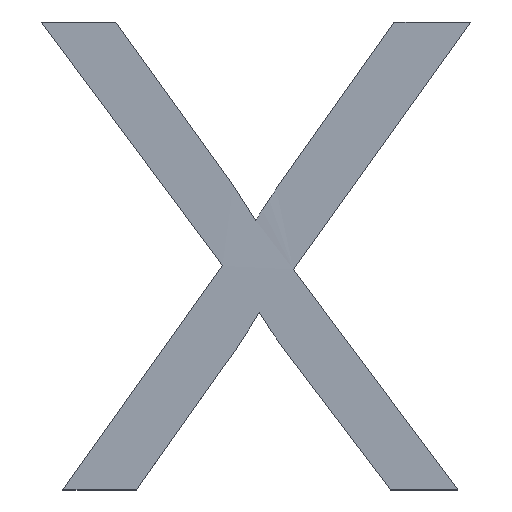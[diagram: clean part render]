
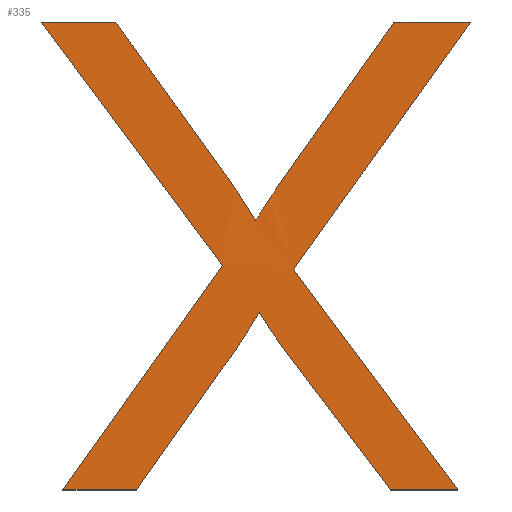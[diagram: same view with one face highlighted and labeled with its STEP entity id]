
A CAD part, top view. The second image highlights one B-rep face of the part: STEP entity #335.
In plain terms, the highlighted planar face has unit normal (0, 0, 1).
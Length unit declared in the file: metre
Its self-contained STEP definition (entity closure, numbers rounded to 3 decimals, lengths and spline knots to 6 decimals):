
#12=B_SPLINE_CURVE_WITH_KNOTS('',3,(#544,#545,#546,#547),.UNSPECIFIED.,
 .F.,.F.,(4,4),(0.,0.000073),.UNSPECIFIED.);
#15=CIRCLE('',#346,0.001192);
#17=CIRCLE('',#349,0.001058);
#19=CIRCLE('',#358,0.0014);
#100=ORIENTED_EDGE('',*,*,#160,.T.);
#101=ORIENTED_EDGE('',*,*,#116,.T.);
#102=ORIENTED_EDGE('',*,*,#120,.T.);
#103=ORIENTED_EDGE('',*,*,#123,.T.);
#104=ORIENTED_EDGE('',*,*,#126,.T.);
#105=ORIENTED_EDGE('',*,*,#129,.T.);
#106=ORIENTED_EDGE('',*,*,#132,.T.);
#107=ORIENTED_EDGE('',*,*,#135,.T.);
#108=ORIENTED_EDGE('',*,*,#138,.T.);
#109=ORIENTED_EDGE('',*,*,#141,.T.);
#110=ORIENTED_EDGE('',*,*,#144,.T.);
#111=ORIENTED_EDGE('',*,*,#147,.T.);
#112=ORIENTED_EDGE('',*,*,#150,.T.);
#113=ORIENTED_EDGE('',*,*,#152,.T.);
#114=ORIENTED_EDGE('',*,*,#154,.T.);
#115=ORIENTED_EDGE('',*,*,#157,.T.);
#116=EDGE_CURVE('',#162,#163,#192,.T.);
#120=EDGE_CURVE('',#163,#166,#196,.T.);
#123=EDGE_CURVE('',#166,#168,#199,.F.);
#126=EDGE_CURVE('',#168,#170,#202,.T.);
#129=EDGE_CURVE('',#170,#172,#15,.F.);
#132=EDGE_CURVE('',#172,#174,#17,.F.);
#135=EDGE_CURVE('',#174,#176,#207,.T.);
#138=EDGE_CURVE('',#176,#178,#210,.F.);
#141=EDGE_CURVE('',#178,#180,#213,.T.);
#144=EDGE_CURVE('',#180,#182,#216,.T.);
#147=EDGE_CURVE('',#182,#184,#219,.T.);
#150=EDGE_CURVE('',#184,#186,#222,.T.);
#152=EDGE_CURVE('',#186,#187,#19,.T.);
#154=EDGE_CURVE('',#187,#188,#12,.T.);
#157=EDGE_CURVE('',#188,#190,#225,.T.);
#160=EDGE_CURVE('',#190,#162,#228,.T.);
#162=VERTEX_POINT('',#453);
#163=VERTEX_POINT('',#454);
#166=VERTEX_POINT('',#462);
#168=VERTEX_POINT('',#468);
#170=VERTEX_POINT('',#474);
#172=VERTEX_POINT('',#480);
#174=VERTEX_POINT('',#486);
#176=VERTEX_POINT('',#492);
#178=VERTEX_POINT('',#498);
#180=VERTEX_POINT('',#504);
#182=VERTEX_POINT('',#510);
#184=VERTEX_POINT('',#516);
#186=VERTEX_POINT('',#522);
#187=VERTEX_POINT('',#526);
#188=VERTEX_POINT('',#548);
#190=VERTEX_POINT('',#558);
#192=LINE('',#452,#230);
#196=LINE('',#461,#234);
#199=LINE('',#467,#237);
#202=LINE('',#473,#240);
#207=LINE('',#491,#245);
#210=LINE('',#497,#248);
#213=LINE('',#503,#251);
#216=LINE('',#509,#254);
#219=LINE('',#515,#257);
#222=LINE('',#521,#260);
#225=LINE('',#557,#263);
#228=LINE('',#563,#266);
#230=VECTOR('',#368,1.);
#234=VECTOR('',#374,1.);
#237=VECTOR('',#379,1.);
#240=VECTOR('',#384,1.);
#245=VECTOR('',#403,1.);
#248=VECTOR('',#408,1.);
#251=VECTOR('',#413,1.);
#254=VECTOR('',#418,1.);
#257=VECTOR('',#423,1.);
#260=VECTOR('',#428,1.);
#263=VECTOR('',#439,1.);
#266=VECTOR('',#444,1.);
#285=EDGE_LOOP('',(#100,#101,#102,#103,#104,#105,#106,#107,#108,#109,#110,
#111,#112,#113,#114,#115));
#303=FACE_BOUND('',#285,.T.);
#317=PLANE('',#363);
#335=ADVANCED_FACE('',(#303),#317,.F.);
#346=AXIS2_PLACEMENT_3D('',#479,#389,#390);
#349=AXIS2_PLACEMENT_3D('',#485,#396,#397);
#358=AXIS2_PLACEMENT_3D('',#525,#432,#433);
#363=AXIS2_PLACEMENT_3D('',#566,#448,#449);
#368=DIRECTION('',(0.596,-0.803,0.));
#374=DIRECTION('',(-0.58,-0.815,0.));
#379=DIRECTION('',(-1.,0.,0.));
#384=DIRECTION('',(0.578,0.816,0.));
#389=DIRECTION('',(0.,0.,-1.));
#390=DIRECTION('',(-1.,0.,0.));
#396=DIRECTION('',(0.,0.,-1.));
#397=DIRECTION('',(0.,1.,0.));
#403=DIRECTION('',(0.604,-0.797,0.));
#408=DIRECTION('',(-1.,0.,0.));
#413=DIRECTION('',(-0.598,0.802,0.));
#418=DIRECTION('',(0.582,0.813,0.));
#423=DIRECTION('',(-1.,0.,0.));
#428=DIRECTION('',(-0.576,-0.817,0.));
#432=DIRECTION('',(0.,0.,1.));
#433=DIRECTION('',(0.,-1.,0.));
#439=DIRECTION('',(-0.584,0.811,0.));
#444=DIRECTION('',(-1.,0.,0.));
#448=DIRECTION('',(0.,0.,-1.));
#449=DIRECTION('',(0.,-1.,0.));
#452=CARTESIAN_POINT('',(-0.0435,0.006759,-0.03));
#453=CARTESIAN_POINT('',(-0.0435,0.006759,-0.03));
#454=CARTESIAN_POINT('',(-0.043184,0.006333,-0.03));
#461=CARTESIAN_POINT('',(-0.043184,0.006333,-0.03));
#462=CARTESIAN_POINT('',(-0.043463,0.005942,-0.03));
#467=CARTESIAN_POINT('',(-0.04158,0.005942,-0.03));
#468=CARTESIAN_POINT('',(-0.043334,0.005942,-0.03));
#473=CARTESIAN_POINT('',(-0.043334,0.005942,-0.03));
#474=CARTESIAN_POINT('',(-0.043186,0.006151,-0.03));
#479=CARTESIAN_POINT('',(-0.044148,0.006855,-0.03));
#480=CARTESIAN_POINT('',(-0.04312,0.006251,-0.03));
#485=CARTESIAN_POINT('',(-0.04222,0.006808,-0.03));
#486=CARTESIAN_POINT('',(-0.043055,0.006158,-0.03));
#491=CARTESIAN_POINT('',(-0.043055,0.006158,-0.03));
#492=CARTESIAN_POINT('',(-0.042891,0.005942,-0.03));
#497=CARTESIAN_POINT('',(-0.04158,0.005942,-0.03));
#498=CARTESIAN_POINT('',(-0.042773,0.005942,-0.03));
#503=CARTESIAN_POINT('',(-0.042773,0.005942,-0.03));
#504=CARTESIAN_POINT('',(-0.04306,0.006327,-0.03));
#509=CARTESIAN_POINT('',(-0.04306,0.006327,-0.03));
#510=CARTESIAN_POINT('',(-0.042751,0.006759,-0.03));
#515=CARTESIAN_POINT('',(-0.04158,0.006759,-0.03));
#516=CARTESIAN_POINT('',(-0.042885,0.006759,-0.03));
#521=CARTESIAN_POINT('',(-0.042885,0.006759,-0.03));
#522=CARTESIAN_POINT('',(-0.04309,0.006467,-0.030001));
#525=CARTESIAN_POINT('',(-0.041936,0.005674,-0.03));
#526=CARTESIAN_POINT('',(-0.043126,0.006412,-0.030001));
#544=CARTESIAN_POINT('',(-0.043126,0.006412,-0.03));
#545=CARTESIAN_POINT('',(-0.043139,0.006433,-0.03));
#546=CARTESIAN_POINT('',(-0.043152,0.006454,-0.03));
#547=CARTESIAN_POINT('',(-0.043165,0.006474,-0.03));
#548=CARTESIAN_POINT('',(-0.043165,0.006474,-0.03));
#557=CARTESIAN_POINT('',(-0.043165,0.006474,-0.03));
#558=CARTESIAN_POINT('',(-0.04337,0.006759,-0.03));
#563=CARTESIAN_POINT('',(-0.04158,0.006759,-0.03));
#566=CARTESIAN_POINT('',(-0.04158,0.00635,-0.03));
